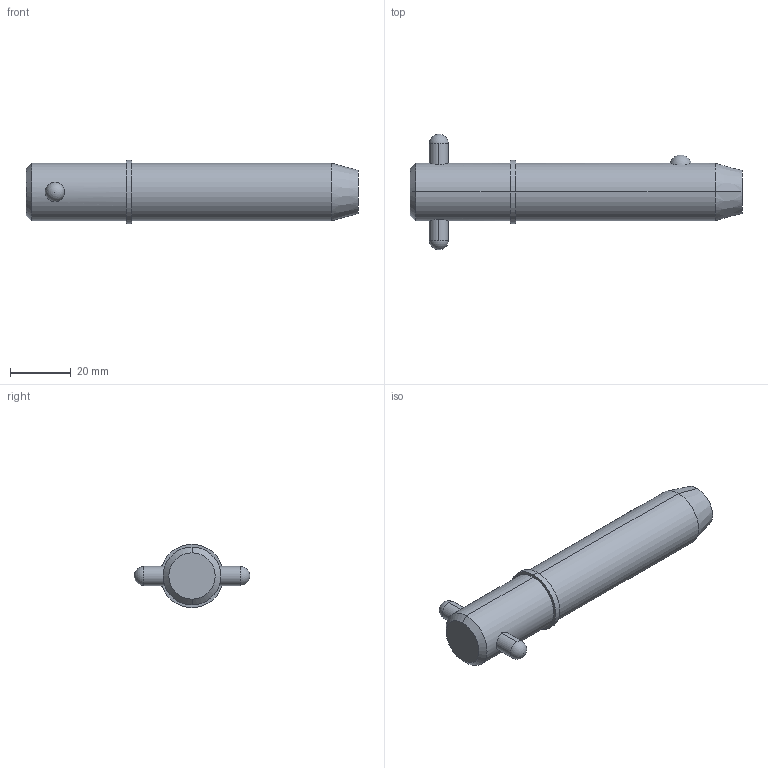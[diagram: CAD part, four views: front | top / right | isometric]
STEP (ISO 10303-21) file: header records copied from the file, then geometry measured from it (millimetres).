
FILE_DESCRIPTION (( 'STEP AP203' ), '1' );
FILE_NAME ('33018.W7520.step', '2024-11-19T17:20:08', ( '' ), ( '' ), 'SwSTEP 2.0', 'SolidWorks 2019', '' );
FILE_SCHEMA (( 'CONFIG_CONTROL_DESIGN' ));
Length unit declared in the file: millimetre
Products named in the file (3): Part2_33018.W7520; 33018.W7520; Part1_33018.W7520
Assembly tree (2 placements, depth 2):
  33018.W7520
    Part1_33018.W7520
    Part2_33018.W7520
Bounding box: 109.53 x 38.1 x 20.95 mm (x, y, z)
Volume: 31264.8 mm3; surface area: 8103.5 mm2
Topology: 2 solids, 2 shells, 22 faces, 47 edges, 30 vertices
Faces by surface type: cylinder 10, sphere 4, cone 4, plane 4
Entity records: 1041 total; most frequent: CARTESIAN_POINT 284, DIRECTION 110, ORIENTED_EDGE 82, AXIS2_PLACEMENT_3D 48, EDGE_CURVE 41, EDGE_LOOP 27, VERTEX_POINT 26, PERSON_AND_ORGANIZATION 26
